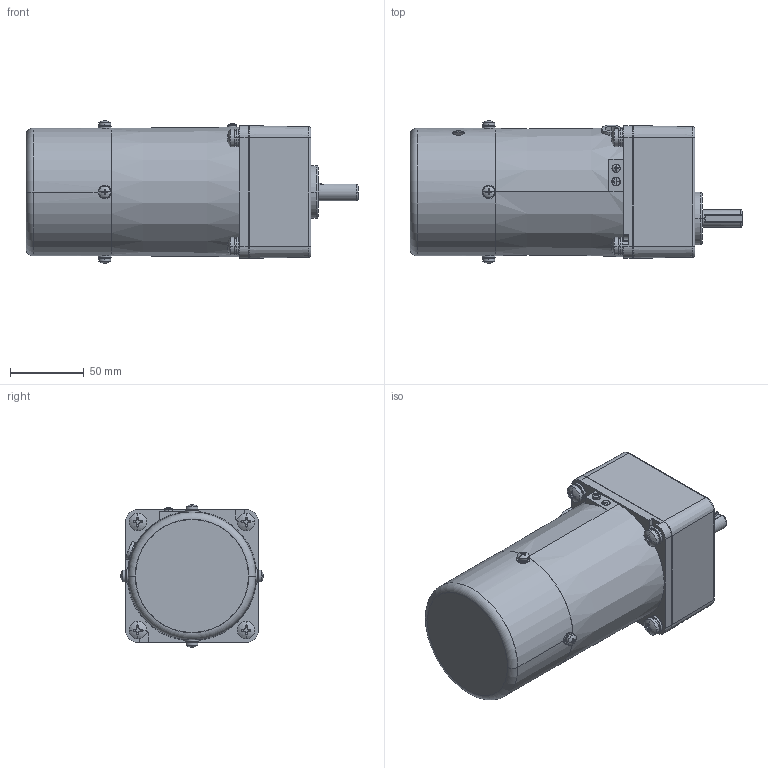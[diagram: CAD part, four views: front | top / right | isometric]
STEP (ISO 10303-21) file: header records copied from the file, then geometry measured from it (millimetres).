
FILE_DESCRIPTION (( 'STEP AP203' ), '1' );
FILE_NAME ('5RK40GN-CM(5GN3K-18K).STEP', '2020-04-09T03:41:01', ( 'Windows 蚚誧' ), ( '' ), 'SwSTEP 2.0', 'SolidWorks 2019', '' );
FILE_SCHEMA (( 'CONFIG_CONTROL_DESIGN' ));
Length unit declared in the file: millimetre
Products named in the file (5): 5IK40A-C 5GN3K‵18K.stp; M3; 5IK40GN-C(5GN3K-18K); 90SCZ; 5RK40GN-CM(5GN3K-18K)
Assembly tree (4 placements, depth 3):
  5RK40GN-CM(5GN3K-18K)
    5IK40GN-C(5GN3K-18K)
      5IK40A-C 5GN3K‵18K.stp
      M3
    90SCZ
Bounding box: 225.5 x 96.71 x 96.71 mm (x, y, z)
Volume: 993114.4 mm3; surface area: 142896.2 mm2
Topology: 46 solids, 46 shells, 1114 faces, 2799 edges, 1799 vertices
Faces by surface type: plane 452, cylinder 421, cone 124, sphere 62, torus 51, bspline 4
Entity records: 35679 total; most frequent: CARTESIAN_POINT 7609, DIRECTION 6267, ORIENTED_EDGE 5546, EDGE_CURVE 2773, AXIS2_PLACEMENT_3D 2556, VERTEX_POINT 1799, CIRCLE 1438, EDGE_LOOP 1212
